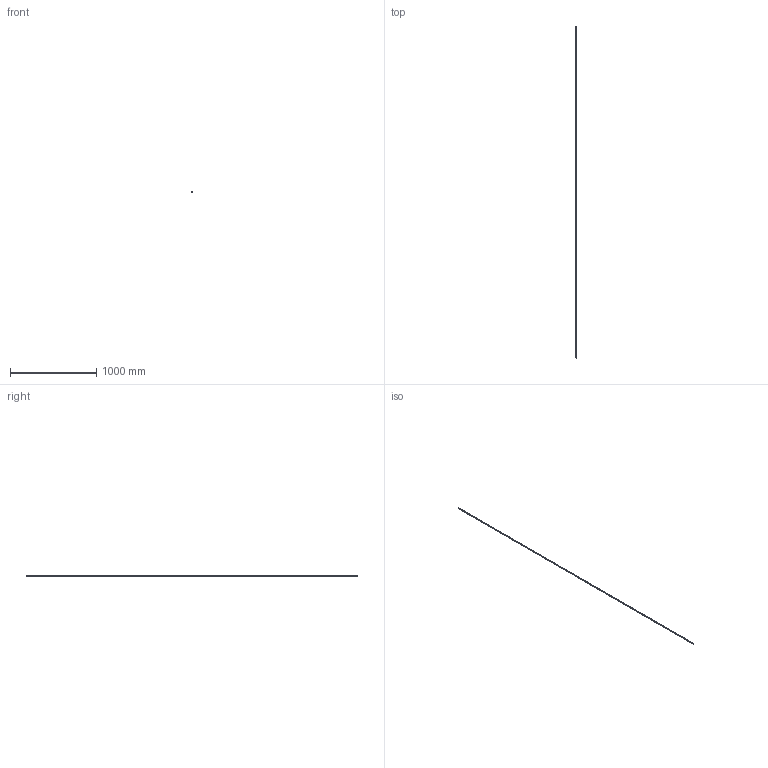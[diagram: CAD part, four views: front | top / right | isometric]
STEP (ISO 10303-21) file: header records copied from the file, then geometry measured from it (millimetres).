
FILE_DESCRIPTION (( 'STEP AP214' ), '1' );
FILE_NAME ('Fuel Rod Assembly.STEP', '2021-02-18T13:49:38', ( '' ), ( '' ), 'SwSTEP 2.0', 'SolidWorks 2020', '' );
FILE_SCHEMA (( 'AUTOMOTIVE_DESIGN' ));
Length unit declared in the file: inch
Products named in the file (6): Fuel Rod Assembly; Spring^Open100 Fuel Rod Assembly; Open100 Fuel Rod Cladding; Open100 Fuel Rod, Nonremovable, Top End Plug; Open100 Fuel Pellet_Individual Pellet; Open100 Fuel Rod, Nonremovable, Bottom End Plug
Assembly tree (376 placements, depth 2):
  Fuel Rod Assembly
    Open100 Fuel Rod Cladding
    Open100 Fuel Rod, Nonremovable, Bottom End Plug
    Open100 Fuel Rod, Nonremovable, Top End Plug
    Open100 Fuel Pellet_Individual Pellet  x372
    Spring^Open100 Fuel Rod Assembly
Bounding box: 9.53 x 3850.64 x 9.53 mm (x, y, z)
Volume: 254660.4 mm3; surface area: 351171.4 mm2
Topology: 376 solids, 376 shells, 4513 faces, 8278 edges, 5264 vertices
Faces by surface type: cone 1500, sphere 1488, cylinder 764, plane 755, torus 4, bspline 2
Entity records: 20734 total; most frequent: CARTESIAN_POINT 16574, DIRECTION 1066, AXIS2_PLACEMENT_3D 514, PRODUCT_DEFINITION_SHAPE 382, CONTEXT_DEPENDENT_SHAPE_REPRESENTATION 376, ITEM_DEFINED_TRANSFORMATION 376, NEXT_ASSEMBLY_USAGE_OCCURRENCE 376, ORIENTED_EDGE 232
